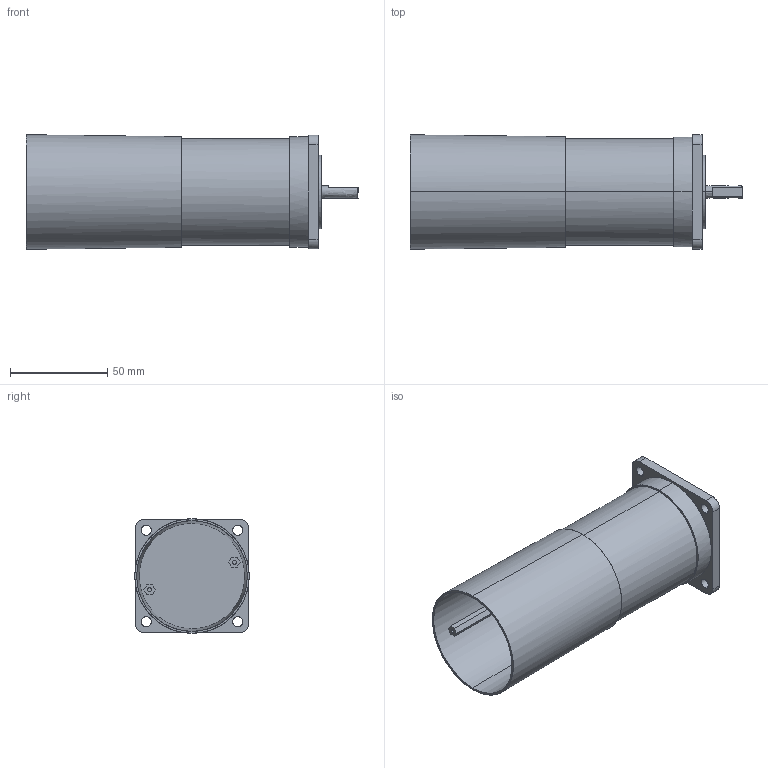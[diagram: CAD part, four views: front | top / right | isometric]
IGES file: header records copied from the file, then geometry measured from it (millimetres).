
Global section: file name: MAC140-A1.igs; native system:  By Spatial Corp.; preprocessor: XPlus GENERIC/IGES 3.0; author: Author; organization: Title; date: 20060113.090302; units: millimetre
Bounding box: 171.07 x 58.92 x 59 mm (x, y, z)
Surface area: 50681.6 mm2 (no closed solid volume)
Topology: 0 solids, 0 shells, 58 faces, 276 edges, 276 vertices
Faces by surface type: bspline 58
